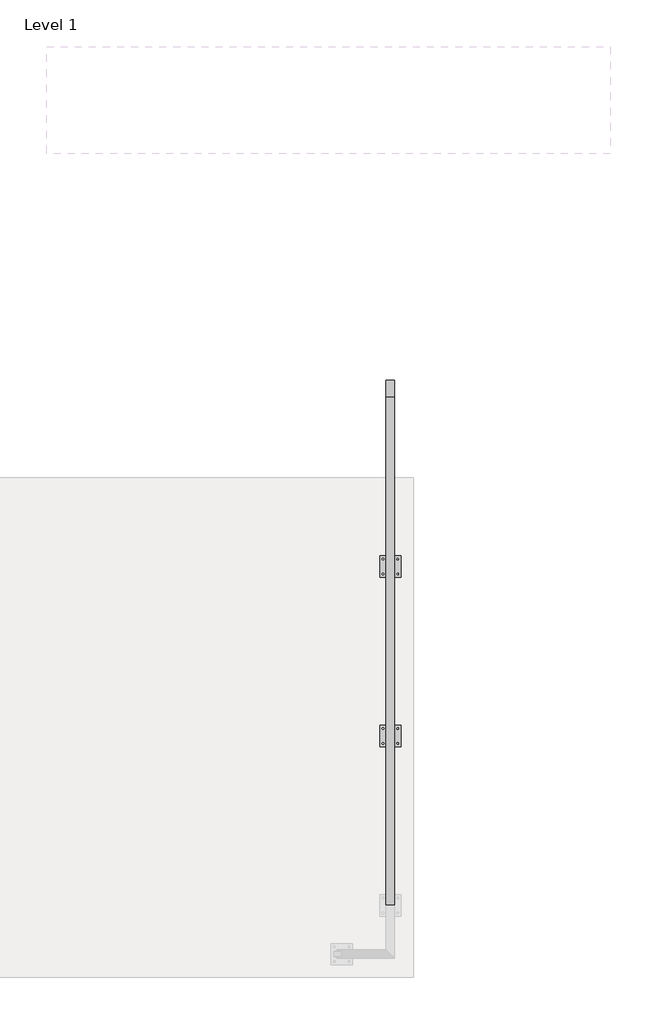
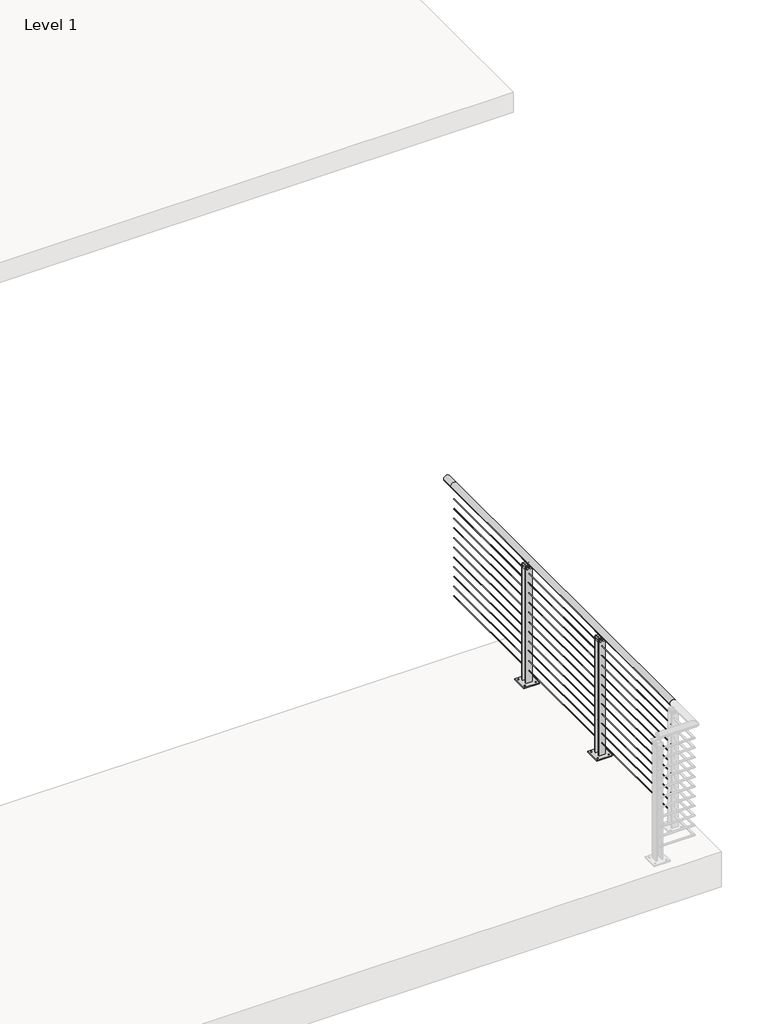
# One storey, part 16 of 36: 1 railing.
"""IFC4 building model written with IfcOpenShell, lengths in millimetres."""

from ifc_helpers import new_model, si_unit, point, frame, frame_2d, origin, origin_with_axes, place, context, project, spatial, polyline, circle_curve, trimmed, segment, composite_curve, outline, extrude, element, save
from ifc_brep_helpers import plane_surface, cylinder_surface, revolved_surface, advanced_brep

model = new_model("IFC4")

# Units and contexts
model_context = context("Model", 3, world=origin())
ifc_project = project(units=[si_unit("LENGTHUNIT", "METRE", prefix="MILLI")], contexts=[model_context])

# Site, building, storey
site = spatial("IfcSite", under=ifc_project)
building = spatial("IfcBuilding", under=site)
storey = spatial("IfcBuildingStorey", under=building, Name="Level 1", Elevation=0.0)

# Railing
placement = place(None, origin())
element("IfcRailing", 1, ObjectType="VIVA-BLADE-Cable-Floor Mount-Straight", at=placement, inside=storey, context=model_context, shape_type="SolidModel", body=[
    advanced_brep(
    [(19629.2867188, -56752.6334719, 1054.1), (19578.4867188, -56752.6334719, 1054.1), (19629.2867188, -53704.6334719, 1054.1), (19578.4867188, -53704.6334719, 1054.1), (19629.2867188, -53603.0334719, 1054.1), (19578.4867188, -53603.0334719, 1054.1)],
    [
        (0, 1, circle_curve(frame((19603.8867188, -56752.6334719, 1054.1), z_axis=(0.0, -1.0, 0.0), x_axis=(-1.0, 0.0, 0.0)), 25.4)),
        (1, 0, circle_curve(frame((19603.8867188, -56752.6334719, 1054.1), z_axis=(0.0, -1.0, 0.0), x_axis=(-1.0, 0.0, 0.0)), 25.4)),
        (0, 2),
        (2, 3, circle_curve(frame((19603.8867188, -53704.6334719, 1054.1), z_axis=(0.0, -1.0, 0.0), x_axis=(-1.0, 0.0, 0.0)), 25.4)),
        (3, 1),
        (3, 2, circle_curve(frame((19603.8867188, -53704.6334719, 1054.1), z_axis=(0.0, -1.0, 0.0), x_axis=(-1.0, 0.0, 0.0)), 25.4)),
        (4, 5, circle_curve(frame((19603.8867188, -53603.0334719, 1054.1), z_axis=(0.0, 1.0, 0.0), x_axis=(-1.0, 0.0, 0.0)), 25.4)),
        (5, 4, circle_curve(frame((19603.8867188, -53603.0334719, 1054.1), z_axis=(0.0, 1.0, 0.0), x_axis=(-1.0, 0.0, 0.0)), 25.4)),
        (2, 4),
        (5, 3),
    ],
    [
        plane_surface(frame((19603.8867188, -56752.6334719, 1079.5), z_axis=(0.0, -1.0, 0.0), x_axis=(0.0, 0.0, 1.0))),
        cylinder_surface(frame((19603.8867188, -56752.6334719, 1054.1), z_axis=(0.0, -1.0, 0.0), x_axis=(-1.0, 0.0, 0.0)), 25.4),
        plane_surface(frame((19603.8867188, -53603.0334719, 1079.5), z_axis=(0.0, 1.0, 0.0), x_axis=(0.0, 0.0, 1.0))),
        cylinder_surface(frame((19603.8867188, -53704.6334719, 1054.1), z_axis=(0.0, -1.0, 0.0), x_axis=(-1.0, 0.0, 0.0)), 25.4),
    ],
    [
        (0, [[1, 2]]),
        (1, [[-1, 3, 4, 5]]),
        (1, [[-2, -5, 6, -3]]),
        (2, [[7, 8]]),
        (3, [[-4, 9, -8, 10]]),
        (3, [[-6, -10, -7, -9]]),
    ],
),
    extrude(outline(composite_curve([segment(trimmed(circle_curve(frame_2d((937.4124, 19603.8867188)), 2.3876), [point((937.4124, 19601.4991188))], [point((937.4124, 19606.2743188))], False, "CARTESIAN"), True, "CONTINUOUS"), segment(trimmed(circle_curve(frame_2d((937.4124, 19603.8867188)), 2.3876), [point((937.4124, 19606.2743188))], [point((937.4124, 19601.4991188))], False, "CARTESIAN"), True, "CONTINUOUS")], self_intersect=False)), frame((0.0, -56752.6334719, 0.0), z_axis=(0.0, 1.0, 0.0), x_axis=(0.0, 0.0, 1.0)), (0.0, 0.0, 1.0), 3048.0),
    extrude(outline(composite_curve([segment(trimmed(circle_curve(frame_2d((854.8624, 19603.8867188)), 2.3876), [point((854.8624, 19601.4991188))], [point((854.8624, 19606.2743188))], False, "CARTESIAN"), True, "CONTINUOUS"), segment(trimmed(circle_curve(frame_2d((854.8624, 19603.8867188)), 2.3876), [point((854.8624, 19606.2743188))], [point((854.8624, 19601.4991188))], False, "CARTESIAN"), True, "CONTINUOUS")], self_intersect=False)), frame((0.0, -56752.6334719, 0.0), z_axis=(0.0, 1.0, 0.0), x_axis=(0.0, 0.0, 1.0)), (0.0, 0.0, 1.0), 3048.0),
    extrude(outline(composite_curve([segment(trimmed(circle_curve(frame_2d((772.3124, 19603.8867188)), 2.3876), [point((772.3124, 19601.4991188))], [point((772.3124, 19606.2743188))], False, "CARTESIAN"), True, "CONTINUOUS"), segment(trimmed(circle_curve(frame_2d((772.3124, 19603.8867188)), 2.3876), [point((772.3124, 19606.2743188))], [point((772.3124, 19601.4991188))], False, "CARTESIAN"), True, "CONTINUOUS")], self_intersect=False)), frame((0.0, -56752.6334719, 0.0), z_axis=(0.0, 1.0, 0.0), x_axis=(0.0, 0.0, 1.0)), (0.0, 0.0, 1.0), 3048.0),
    extrude(outline(composite_curve([segment(trimmed(circle_curve(frame_2d((689.7624, 19603.8867188)), 2.3876), [point((689.7624, 19601.4991188))], [point((689.7624, 19606.2743188))], False, "CARTESIAN"), True, "CONTINUOUS"), segment(trimmed(circle_curve(frame_2d((689.7624, 19603.8867188)), 2.3876), [point((689.7624, 19606.2743188))], [point((689.7624, 19601.4991188))], False, "CARTESIAN"), True, "CONTINUOUS")], self_intersect=False)), frame((0.0, -56752.6334719, 0.0), z_axis=(0.0, 1.0, 0.0), x_axis=(0.0, 0.0, 1.0)), (0.0, 0.0, 1.0), 3048.0),
    extrude(outline(composite_curve([segment(trimmed(circle_curve(frame_2d((607.2124, 19603.8867188)), 2.3876), [point((607.2124, 19601.4991188))], [point((607.2124, 19606.2743188))], False, "CARTESIAN"), True, "CONTINUOUS"), segment(trimmed(circle_curve(frame_2d((607.2124, 19603.8867188)), 2.3876), [point((607.2124, 19606.2743188))], [point((607.2124, 19601.4991188))], False, "CARTESIAN"), True, "CONTINUOUS")], self_intersect=False)), frame((0.0, -56752.6334719, 0.0), z_axis=(0.0, 1.0, 0.0), x_axis=(0.0, 0.0, 1.0)), (0.0, 0.0, 1.0), 3048.0),
    extrude(outline(composite_curve([segment(trimmed(circle_curve(frame_2d((524.6624, 19603.8867188)), 2.3876), [point((524.6624, 19601.4991188))], [point((524.6624, 19606.2743188))], False, "CARTESIAN"), True, "CONTINUOUS"), segment(trimmed(circle_curve(frame_2d((524.6624, 19603.8867188)), 2.3876), [point((524.6624, 19606.2743188))], [point((524.6624, 19601.4991188))], False, "CARTESIAN"), True, "CONTINUOUS")], self_intersect=False)), frame((0.0, -56752.6334719, 0.0), z_axis=(0.0, 1.0, 0.0), x_axis=(0.0, 0.0, 1.0)), (0.0, 0.0, 1.0), 3048.0),
    extrude(outline(composite_curve([segment(trimmed(circle_curve(frame_2d((442.1124, 19603.8867188)), 2.3876), [point((442.1124, 19601.4991188))], [point((442.1124, 19606.2743188))], False, "CARTESIAN"), True, "CONTINUOUS"), segment(trimmed(circle_curve(frame_2d((442.1124, 19603.8867188)), 2.3876), [point((442.1124, 19606.2743188))], [point((442.1124, 19601.4991188))], False, "CARTESIAN"), True, "CONTINUOUS")], self_intersect=False)), frame((0.0, -56752.6334719, 0.0), z_axis=(0.0, 1.0, 0.0), x_axis=(0.0, 0.0, 1.0)), (0.0, 0.0, 1.0), 3048.0),
    extrude(outline(composite_curve([segment(trimmed(circle_curve(frame_2d((359.5624, 19603.8867188)), 2.3876), [point((359.5624, 19601.4991188))], [point((359.5624, 19606.2743188))], False, "CARTESIAN"), True, "CONTINUOUS"), segment(trimmed(circle_curve(frame_2d((359.5624, 19603.8867188)), 2.3876), [point((359.5624, 19606.2743188))], [point((359.5624, 19601.4991188))], False, "CARTESIAN"), True, "CONTINUOUS")], self_intersect=False)), frame((0.0, -56752.6334719, 0.0), z_axis=(0.0, 1.0, 0.0), x_axis=(0.0, 0.0, 1.0)), (0.0, 0.0, 1.0), 3048.0),
    extrude(outline(composite_curve([segment(trimmed(circle_curve(frame_2d((277.0124, 19603.8867188)), 2.3876), [point((277.0124, 19601.4991188))], [point((277.0124, 19606.2743188))], False, "CARTESIAN"), True, "CONTINUOUS"), segment(trimmed(circle_curve(frame_2d((277.0124, 19603.8867188)), 2.3876), [point((277.0124, 19606.2743188))], [point((277.0124, 19601.4991188))], False, "CARTESIAN"), True, "CONTINUOUS")], self_intersect=False)), frame((0.0, -56752.6334719, 0.0), z_axis=(0.0, 1.0, 0.0), x_axis=(0.0, 0.0, 1.0)), (0.0, 0.0, 1.0), 3048.0),
    extrude(outline(composite_curve([segment(trimmed(circle_curve(frame_2d((194.4624, 19603.8867188)), 2.3876), [point((194.4624, 19601.4991188))], [point((194.4624, 19606.2743188))], False, "CARTESIAN"), True, "CONTINUOUS"), segment(trimmed(circle_curve(frame_2d((194.4624, 19603.8867188)), 2.3876), [point((194.4624, 19606.2743188))], [point((194.4624, 19601.4991188))], False, "CARTESIAN"), True, "CONTINUOUS")], self_intersect=False)), frame((0.0, -56752.6334719, 0.0), z_axis=(0.0, 1.0, 0.0), x_axis=(0.0, 0.0, 1.0)), (0.0, 0.0, 1.0), 3048.0),
    extrude(outline(composite_curve([segment(trimmed(circle_curve(frame_2d((111.9124, 19603.8867188)), 2.3876), [point((111.9124, 19601.4991188))], [point((111.9124, 19606.2743188))], False, "CARTESIAN"), True, "CONTINUOUS"), segment(trimmed(circle_curve(frame_2d((111.9124, 19603.8867188)), 2.3876), [point((111.9124, 19606.2743188))], [point((111.9124, 19601.4991188))], False, "CARTESIAN"), True, "CONTINUOUS")], self_intersect=False)), frame((0.0, -56752.6334719, 0.0), z_axis=(0.0, 1.0, 0.0), x_axis=(0.0, 0.0, 1.0)), (0.0, 0.0, 1.0), 3048.0),
    advanced_brep(
    [(19591.1265951, -54675.3960719, 1032.0967655), (19615.9986597, -54675.3960719, 1031.9535285), (19618.80759, -54675.3960719, 1027.1267745), (19587.2906977, -54675.3960719, 1027.707533), (19591.1265951, -54765.8708719, 1032.0967655), (19587.2906977, -54765.8708719, 1027.707533), (19618.9213834, -54765.8708719, 1027.1893964), (19616.0856318, -54765.8708719, 1032.0018447)],
    [
        (0, 1, circle_curve(frame((19603.690398, -54675.3960719, 1054.2115898), z_axis=(0.0, -1.0, 0.0), x_axis=(-1.0, 0.0, 0.0)), 25.4345159)),
        (1, 2, circle_curve(frame((19617.3302849, -54675.3960719, 1029.4993599), z_axis=(0.0, 1.0, 0.0), x_axis=(-1.0, 0.0, 0.0)), 2.7949225)),
        (2, 3, circle_curve(frame((19603.5569349, -54675.3960719, 1054.9742164), z_axis=(0.0, 1.0, 0.0), x_axis=(-1.0, 0.0, 0.0)), 31.75)),
        (3, 0, circle_curve(frame((19589.5790375, -54675.3960719, 1029.5784521), z_axis=(0.0, 1.0, 0.0), x_axis=(-1.0, 0.0, 0.0)), 2.9558141)),
        (4, 5, circle_curve(frame((19589.5790375, -54765.8708719, 1029.5784521), z_axis=(0.0, -1.0, 0.0), x_axis=(-1.0, 0.0, 0.0)), 2.9558141)),
        (5, 6, circle_curve(frame((19603.5569349, -54765.8708719, 1054.9742164), z_axis=(0.0, -1.0, 0.0), x_axis=(-1.0, 0.0, 0.0)), 31.75)),
        (6, 7, circle_curve(frame((19617.3302849, -54765.8708719, 1029.4993599), z_axis=(0.0, -1.0, 0.0), x_axis=(-1.0, 0.0, 0.0)), 2.7949225)),
        (7, 4, circle_curve(frame((19603.690398, -54765.8708719, 1054.2115898), z_axis=(0.0, 1.0, 0.0), x_axis=(-1.0, 0.0, 0.0)), 25.4345159)),
        (0, 4),
        (7, 1),
        (6, 2),
        (5, 3),
    ],
    [
        plane_surface(frame((19578.2558822, -54675.3960719, 1054.2115898), z_axis=(0.0, 1.0, 0.0), x_axis=(0.0, 0.0, -1.0))),
        plane_surface(frame((19578.2558822, -54765.8708719, 1054.2115898), z_axis=(0.0, -1.0, 0.0), x_axis=(0.0, 0.0, 1.0))),
        revolved_surface(polyline([(19578.2558821, -54765.8708719, 1054.2115898), (19578.2558821, -54675.3960719, 1054.2115898)]), (19603.690398, -54765.8708719, 1054.2115898), (0.0, -1.0, 0.0)),
        cylinder_surface(frame((19617.3302849, -54765.8708719, 1029.4993599), z_axis=(0.0, 1.0, 0.0), x_axis=(-1.0, 0.0, 0.0)), 2.7949225),
        cylinder_surface(frame((19603.5569349, -54765.8708719, 1054.9742164), z_axis=(0.0, 1.0, 0.0), x_axis=(-1.0, 0.0, 0.0)), 31.75),
        cylinder_surface(frame((19589.5790375, -54765.8708719, 1029.5784521), z_axis=(0.0, 1.0, 0.0), x_axis=(-1.0, 0.0, 0.0)), 2.9558141),
    ],
    [
        (0, [[1, 2, 3, 4]]),
        (1, [[5, 6, 7, 8]]),
        (2, [[-1, 9, -8, 10]]),
        (3, [[-2, -10, -7, 11]]),
        (4, [[-3, -11, -6, 12]]),
        (5, [[-4, -12, -5, -9]]),
    ],
),
    advanced_brep(
    [(19601.3467188, -54707.9334719, 1014.4125), (19601.3467188, -54733.3334719, 1014.4125), (19601.3467188, -54747.7013867, 1028.7804149), (19601.3467188, -54693.565557, 1028.7804149), (19606.4267188, -54707.9334719, 1014.4125), (19606.4267188, -54693.565557, 1028.7804149), (19606.4267188, -54747.7013867, 1028.7804149), (19606.4267188, -54733.3334719, 1014.4125)],
    [
        (0, 1),
        (1, 2, circle_curve(frame((19601.3467188, -54747.7013867, 1014.4125), z_axis=(1.0, 0.0, 0.0), x_axis=(0.0, -1.0, 0.0)), 14.3679149)),
        (2, 3),
        (3, 0, circle_curve(frame((19601.3467188, -54693.565557, 1014.4125), z_axis=(1.0, 0.0, 0.0), x_axis=(0.0, -1.0, 0.0)), 14.3679149)),
        (4, 5, circle_curve(frame((19606.4267188, -54693.565557, 1014.4125), z_axis=(-1.0, 0.0, 0.0), x_axis=(0.0, -1.0, 0.0)), 14.3679149)),
        (5, 6),
        (6, 7, circle_curve(frame((19606.4267188, -54747.7013867, 1014.4125), z_axis=(-1.0, 0.0, 0.0), x_axis=(0.0, -1.0, 0.0)), 14.3679149)),
        (7, 4),
        (0, 4),
        (7, 1),
        (6, 2),
        (5, 3),
    ],
    [
        plane_surface(frame((19601.3467188, -54733.3334719, 1014.4125), z_axis=(-1.0, 0.0, 0.0), x_axis=(0.0, -1.0, 0.0))),
        plane_surface(frame((19606.4267188, -54733.3334719, 1014.4125), z_axis=(1.0, 0.0, 0.0), x_axis=(0.0, 1.0, 0.0))),
        plane_surface(frame((19601.3467188, -54707.9334719, 1014.4125), z_axis=(0.0, 0.0, -1.0), x_axis=(1.0, 0.0, 0.0))),
        revolved_surface(polyline([(19606.4267188, -54762.0693016, 1014.4125), (19601.3467188, -54762.0693016, 1014.4125)]), (19606.4267188, -54747.7013867, 1014.4125), (1.0, 0.0, 0.0)),
        plane_surface(frame((19601.3467188, -54747.7013867, 1028.7804149), z_axis=(0.0, 0.0, 1.0), x_axis=(1.0, 0.0, 0.0))),
        revolved_surface(polyline([(19606.4267188, -54707.9334719, 1014.4125), (19601.3467188, -54707.9334719, 1014.4125)]), (19606.4267188, -54693.565557, 1014.4125), (1.0, 0.0, 0.0)),
    ],
    [
        (0, [[1, 2, 3, 4]]),
        (1, [[5, 6, 7, 8]]),
        (2, [[-1, 9, -8, 10]]),
        (3, [[-2, -10, -7, 11]]),
        (4, [[-3, -11, -6, 12]]),
        (5, [[-4, -12, -5, -9]]),
    ],
),
    extrude(outline(polyline([(19667.3855247, -54657.1454087), (19667.3855247, -54784.1454087), (19540.3879128, -54784.1454087), (19540.3879128, -54657.1454087), (19667.3855247, -54657.1454087)]), holes=[composite_curve([segment(trimmed(circle_curve(frame_2d((19648.3355247, -54765.0954087)), 4.7625), [point((19653.0980247, -54765.0954087))], [point((19643.5730247, -54765.0954087))], True, "CARTESIAN"), True, "CONTINUOUS"), segment(trimmed(circle_curve(frame_2d((19648.3355247, -54765.0954087)), 4.7625), [point((19643.5730247, -54765.0954087))], [point((19653.0980247, -54765.0954087))], True, "CARTESIAN"), True, "CONTINUOUS")], self_intersect=False), composite_curve([segment(trimmed(circle_curve(frame_2d((19559.4379128, -54765.0954087)), 4.7625), [point((19564.2004128, -54765.0954087))], [point((19554.6754128, -54765.0954087))], True, "CARTESIAN"), True, "CONTINUOUS"), segment(trimmed(circle_curve(frame_2d((19559.4379128, -54765.0954087)), 4.7625), [point((19554.6754128, -54765.0954087))], [point((19564.2004128, -54765.0954087))], True, "CARTESIAN"), True, "CONTINUOUS")], self_intersect=False), composite_curve([segment(trimmed(circle_curve(frame_2d((19559.4379128, -54676.1954087)), 4.7625), [point((19564.2004128, -54676.1954087))], [point((19554.6754128, -54676.1954087))], True, "CARTESIAN"), True, "CONTINUOUS"), segment(trimmed(circle_curve(frame_2d((19559.4379128, -54676.1954087)), 4.7625), [point((19554.6754128, -54676.1954087))], [point((19564.2004128, -54676.1954087))], True, "CARTESIAN"), True, "CONTINUOUS")], self_intersect=False), composite_curve([segment(trimmed(circle_curve(frame_2d((19648.3355247, -54676.1954087)), 4.7625), [point((19653.0980247, -54676.1954087))], [point((19643.5730247, -54676.1954087))], True, "CARTESIAN"), True, "CONTINUOUS"), segment(trimmed(circle_curve(frame_2d((19648.3355247, -54676.1954087)), 4.7625), [point((19643.5730247, -54676.1954087))], [point((19653.0980247, -54676.1954087))], True, "CARTESIAN"), True, "CONTINUOUS")], self_intersect=False)]), origin_with_axes(), (0.0, 0.0, 1.0), 9.525),
    extrude(outline(polyline([(19578.4869221, -54747.7083075), (19578.4869221, -54739.6834719), (19629.2892467, -54739.6834719), (19629.2892467, -54747.7083075), (19578.4869221, -54747.7083075)])), origin_with_axes(), (0.0, 0.0, 1.0), 996.95),
    extrude(outline(composite_curve([segment(trimmed(circle_curve(frame_2d((986.0416929, 19616.5891957)), 8.89), [point((986.0416929, 19625.4791957))], [point((986.0416929, 19607.6991957))], False, "CARTESIAN"), True, "CONTINUOUS"), segment(trimmed(circle_curve(frame_2d((986.0416929, 19616.5891957)), 8.89), [point((986.0416929, 19607.6991957))], [point((986.0416929, 19625.4791957))], False, "CARTESIAN"), True, "CONTINUOUS")], self_intersect=False)), frame((0.0, -54752.3834719, 0.0), z_axis=(0.0, 1.0, 0.0), x_axis=(0.0, 0.0, 1.0)), (0.0, 0.0, 1.0), 63.4880631),
    extrude(outline(composite_curve([segment(trimmed(circle_curve(frame_2d((986.0416929, 19591.1892977)), 8.89), [point((986.0416929, 19600.0792977))], [point((986.0416929, 19582.2992977))], False, "CARTESIAN"), True, "CONTINUOUS"), segment(trimmed(circle_curve(frame_2d((986.0416929, 19591.1892977)), 8.89), [point((986.0416929, 19582.2992977))], [point((986.0416929, 19600.0792977))], False, "CARTESIAN"), True, "CONTINUOUS")], self_intersect=False)), frame((0.0, -54752.3834719, 0.0), z_axis=(0.0, 1.0, 0.0), x_axis=(0.0, 0.0, 1.0)), (0.0, 0.0, 1.0), 63.4880631),
    extrude(outline(polyline([(-54739.6834719, 974.7123), (-54739.6834719, 1008.0625), (-54733.3334719, 1014.4125), (-54707.9334719, 1014.4125), (-54701.5834719, 1008.0625), (-54701.5834719, 974.7123), (-54739.6834719, 974.7123)])), frame((19578.4867188, 0.0, 0.0), z_axis=(1.0, 0.0, 0.0), x_axis=(0.0, 1.0, 0.0)), (0.0, 0.0, 1.0), 50.8025279),
    extrude(outline(polyline([(19578.4869221, -54701.5835099), (19578.4869221, -54693.5825099), (19629.2892467, -54693.5825099), (19629.2892467, -54701.5835099), (19578.4869221, -54701.5835099)])), origin_with_axes(), (0.0, 0.0, 1.0), 996.95),
    advanced_brep(
    [(19591.1265951, -55691.3960719, 1032.0967655), (19615.9986597, -55691.3960719, 1031.9535285), (19618.80759, -55691.3960719, 1027.1267745), (19587.2906977, -55691.3960719, 1027.707533), (19591.1265951, -55781.8708719, 1032.0967655), (19587.2906977, -55781.8708719, 1027.707533), (19618.9213834, -55781.8708719, 1027.1893964), (19616.0856318, -55781.8708719, 1032.0018447)],
    [
        (0, 1, circle_curve(frame((19603.690398, -55691.3960719, 1054.2115898), z_axis=(0.0, -1.0, 0.0), x_axis=(-1.0, 0.0, 0.0)), 25.4345159)),
        (1, 2, circle_curve(frame((19617.3302849, -55691.3960719, 1029.4993599), z_axis=(0.0, 1.0, 0.0), x_axis=(-1.0, 0.0, 0.0)), 2.7949225)),
        (2, 3, circle_curve(frame((19603.5569349, -55691.3960719, 1054.9742164), z_axis=(0.0, 1.0, 0.0), x_axis=(-1.0, 0.0, 0.0)), 31.75)),
        (3, 0, circle_curve(frame((19589.5790375, -55691.3960719, 1029.5784521), z_axis=(0.0, 1.0, 0.0), x_axis=(-1.0, 0.0, 0.0)), 2.9558141)),
        (4, 5, circle_curve(frame((19589.5790375, -55781.8708719, 1029.5784521), z_axis=(0.0, -1.0, 0.0), x_axis=(-1.0, 0.0, 0.0)), 2.9558141)),
        (5, 6, circle_curve(frame((19603.5569349, -55781.8708719, 1054.9742164), z_axis=(0.0, -1.0, 0.0), x_axis=(-1.0, 0.0, 0.0)), 31.75)),
        (6, 7, circle_curve(frame((19617.3302849, -55781.8708719, 1029.4993599), z_axis=(0.0, -1.0, 0.0), x_axis=(-1.0, 0.0, 0.0)), 2.7949225)),
        (7, 4, circle_curve(frame((19603.690398, -55781.8708719, 1054.2115898), z_axis=(0.0, 1.0, 0.0), x_axis=(-1.0, 0.0, 0.0)), 25.4345159)),
        (0, 4),
        (7, 1),
        (6, 2),
        (5, 3),
    ],
    [
        plane_surface(frame((19578.2558822, -55691.3960719, 1054.2115898), z_axis=(0.0, 1.0, 0.0), x_axis=(0.0, 0.0, -1.0))),
        plane_surface(frame((19578.2558822, -55781.8708719, 1054.2115898), z_axis=(0.0, -1.0, 0.0), x_axis=(0.0, 0.0, 1.0))),
        revolved_surface(polyline([(19578.2558821, -55781.8708719, 1054.2115898), (19578.2558821, -55691.3960719, 1054.2115898)]), (19603.690398, -55781.8708719, 1054.2115898), (0.0, -1.0, 0.0)),
        cylinder_surface(frame((19617.3302849, -55781.8708719, 1029.4993599), z_axis=(0.0, 1.0, 0.0), x_axis=(-1.0, 0.0, 0.0)), 2.7949225),
        cylinder_surface(frame((19603.5569349, -55781.8708719, 1054.9742164), z_axis=(0.0, 1.0, 0.0), x_axis=(-1.0, 0.0, 0.0)), 31.75),
        cylinder_surface(frame((19589.5790375, -55781.8708719, 1029.5784521), z_axis=(0.0, 1.0, 0.0), x_axis=(-1.0, 0.0, 0.0)), 2.9558141),
    ],
    [
        (0, [[1, 2, 3, 4]]),
        (1, [[5, 6, 7, 8]]),
        (2, [[-1, 9, -8, 10]]),
        (3, [[-2, -10, -7, 11]]),
        (4, [[-3, -11, -6, 12]]),
        (5, [[-4, -12, -5, -9]]),
    ],
),
    advanced_brep(
    [(19601.3467188, -55723.9334719, 1014.4125), (19601.3467188, -55749.3334719, 1014.4125), (19601.3467188, -55763.7013867, 1028.7804149), (19601.3467188, -55709.565557, 1028.7804149), (19606.4267188, -55723.9334719, 1014.4125), (19606.4267188, -55709.565557, 1028.7804149), (19606.4267188, -55763.7013867, 1028.7804149), (19606.4267188, -55749.3334719, 1014.4125)],
    [
        (0, 1),
        (1, 2, circle_curve(frame((19601.3467188, -55763.7013867, 1014.4125), z_axis=(1.0, 0.0, 0.0), x_axis=(0.0, -1.0, 0.0)), 14.3679149)),
        (2, 3),
        (3, 0, circle_curve(frame((19601.3467188, -55709.565557, 1014.4125), z_axis=(1.0, 0.0, 0.0), x_axis=(0.0, -1.0, 0.0)), 14.3679149)),
        (4, 5, circle_curve(frame((19606.4267188, -55709.565557, 1014.4125), z_axis=(-1.0, 0.0, 0.0), x_axis=(0.0, -1.0, 0.0)), 14.3679149)),
        (5, 6),
        (6, 7, circle_curve(frame((19606.4267188, -55763.7013867, 1014.4125), z_axis=(-1.0, 0.0, 0.0), x_axis=(0.0, -1.0, 0.0)), 14.3679149)),
        (7, 4),
        (0, 4),
        (7, 1),
        (6, 2),
        (5, 3),
    ],
    [
        plane_surface(frame((19601.3467188, -55749.3334719, 1014.4125), z_axis=(-1.0, 0.0, 0.0), x_axis=(0.0, -1.0, 0.0))),
        plane_surface(frame((19606.4267188, -55749.3334719, 1014.4125), z_axis=(1.0, 0.0, 0.0), x_axis=(0.0, 1.0, 0.0))),
        plane_surface(frame((19601.3467188, -55723.9334719, 1014.4125), z_axis=(0.0, 0.0, -1.0), x_axis=(1.0, 0.0, 0.0))),
        revolved_surface(polyline([(19606.4267188, -55778.0693016, 1014.4125), (19601.3467188, -55778.0693016, 1014.4125)]), (19606.4267188, -55763.7013867, 1014.4125), (1.0, 0.0, 0.0)),
        plane_surface(frame((19601.3467188, -55763.7013867, 1028.7804149), z_axis=(0.0, 0.0, 1.0), x_axis=(1.0, 0.0, 0.0))),
        revolved_surface(polyline([(19606.4267188, -55723.9334719, 1014.4125), (19601.3467188, -55723.9334719, 1014.4125)]), (19606.4267188, -55709.565557, 1014.4125), (1.0, 0.0, 0.0)),
    ],
    [
        (0, [[1, 2, 3, 4]]),
        (1, [[5, 6, 7, 8]]),
        (2, [[-1, 9, -8, 10]]),
        (3, [[-2, -10, -7, 11]]),
        (4, [[-3, -11, -6, 12]]),
        (5, [[-4, -12, -5, -9]]),
    ],
),
    extrude(outline(polyline([(19667.3855247, -55673.1454087), (19667.3855247, -55800.1454087), (19540.3879128, -55800.1454087), (19540.3879128, -55673.1454087), (19667.3855247, -55673.1454087)]), holes=[composite_curve([segment(trimmed(circle_curve(frame_2d((19648.3355247, -55781.0954087)), 4.7625), [point((19653.0980247, -55781.0954087))], [point((19643.5730247, -55781.0954087))], True, "CARTESIAN"), True, "CONTINUOUS"), segment(trimmed(circle_curve(frame_2d((19648.3355247, -55781.0954087)), 4.7625), [point((19643.5730247, -55781.0954087))], [point((19653.0980247, -55781.0954087))], True, "CARTESIAN"), True, "CONTINUOUS")], self_intersect=False), composite_curve([segment(trimmed(circle_curve(frame_2d((19559.4379128, -55781.0954087)), 4.7625), [point((19564.2004128, -55781.0954087))], [point((19554.6754128, -55781.0954087))], True, "CARTESIAN"), True, "CONTINUOUS"), segment(trimmed(circle_curve(frame_2d((19559.4379128, -55781.0954087)), 4.7625), [point((19554.6754128, -55781.0954087))], [point((19564.2004128, -55781.0954087))], True, "CARTESIAN"), True, "CONTINUOUS")], self_intersect=False), composite_curve([segment(trimmed(circle_curve(frame_2d((19559.4379128, -55692.1954087)), 4.7625), [point((19564.2004128, -55692.1954087))], [point((19554.6754128, -55692.1954087))], True, "CARTESIAN"), True, "CONTINUOUS"), segment(trimmed(circle_curve(frame_2d((19559.4379128, -55692.1954087)), 4.7625), [point((19554.6754128, -55692.1954087))], [point((19564.2004128, -55692.1954087))], True, "CARTESIAN"), True, "CONTINUOUS")], self_intersect=False), composite_curve([segment(trimmed(circle_curve(frame_2d((19648.3355247, -55692.1954087)), 4.7625), [point((19653.0980247, -55692.1954087))], [point((19643.5730247, -55692.1954087))], True, "CARTESIAN"), True, "CONTINUOUS"), segment(trimmed(circle_curve(frame_2d((19648.3355247, -55692.1954087)), 4.7625), [point((19643.5730247, -55692.1954087))], [point((19653.0980247, -55692.1954087))], True, "CARTESIAN"), True, "CONTINUOUS")], self_intersect=False)]), origin_with_axes(), (0.0, 0.0, 1.0), 9.525),
    extrude(outline(polyline([(19578.4869221, -55763.7083075), (19578.4869221, -55755.6834719), (19629.2892467, -55755.6834719), (19629.2892467, -55763.7083075), (19578.4869221, -55763.7083075)])), origin_with_axes(), (0.0, 0.0, 1.0), 996.95),
    extrude(outline(composite_curve([segment(trimmed(circle_curve(frame_2d((986.0416929, 19616.5891957)), 8.89), [point((986.0416929, 19625.4791957))], [point((986.0416929, 19607.6991957))], False, "CARTESIAN"), True, "CONTINUOUS"), segment(trimmed(circle_curve(frame_2d((986.0416929, 19616.5891957)), 8.89), [point((986.0416929, 19607.6991957))], [point((986.0416929, 19625.4791957))], False, "CARTESIAN"), True, "CONTINUOUS")], self_intersect=False)), frame((0.0, -55768.3834719, 0.0), z_axis=(0.0, 1.0, 0.0), x_axis=(0.0, 0.0, 1.0)), (0.0, 0.0, 1.0), 63.4880631),
    extrude(outline(composite_curve([segment(trimmed(circle_curve(frame_2d((986.0416929, 19591.1892977)), 8.89), [point((986.0416929, 19600.0792977))], [point((986.0416929, 19582.2992977))], False, "CARTESIAN"), True, "CONTINUOUS"), segment(trimmed(circle_curve(frame_2d((986.0416929, 19591.1892977)), 8.89), [point((986.0416929, 19582.2992977))], [point((986.0416929, 19600.0792977))], False, "CARTESIAN"), True, "CONTINUOUS")], self_intersect=False)), frame((0.0, -55768.3834719, 0.0), z_axis=(0.0, 1.0, 0.0), x_axis=(0.0, 0.0, 1.0)), (0.0, 0.0, 1.0), 63.4880631),
    extrude(outline(polyline([(-55755.6834719, 974.7123), (-55755.6834719, 1008.0625), (-55749.3334719, 1014.4125), (-55723.9334719, 1014.4125), (-55717.5834719, 1008.0625), (-55717.5834719, 974.7123), (-55755.6834719, 974.7123)])), frame((19578.4867188, 0.0, 0.0), z_axis=(1.0, 0.0, 0.0), x_axis=(0.0, 1.0, 0.0)), (0.0, 0.0, 1.0), 50.8025279),
    extrude(outline(polyline([(19578.4869221, -55717.5835099), (19578.4869221, -55709.5825099), (19629.2892467, -55709.5825099), (19629.2892467, -55717.5835099), (19578.4869221, -55717.5835099)])), origin_with_axes(), (0.0, 0.0, 1.0), 996.95),
])

save(model, "model.ifc")
